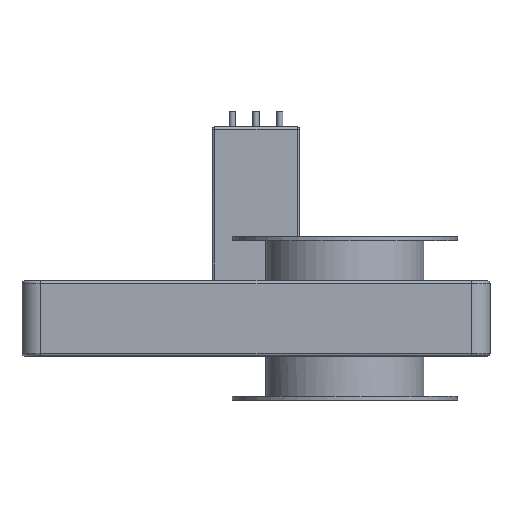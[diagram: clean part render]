
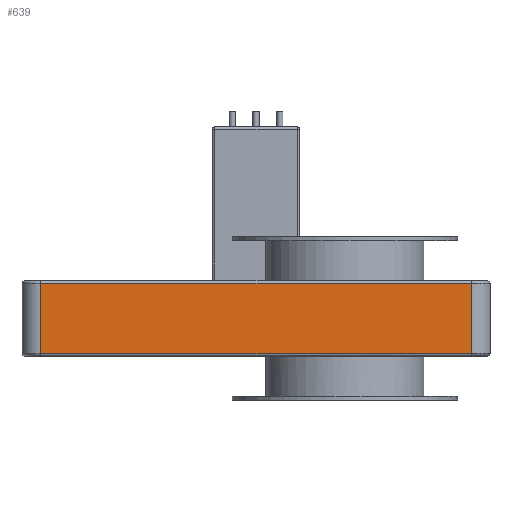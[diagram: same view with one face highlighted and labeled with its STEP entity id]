
A CAD part, front view. The second image highlights one B-rep face of the part: STEP entity #639.
In plain terms, the highlighted free-form (B-spline) face has degree [1, 1] with [2, 2] control points.
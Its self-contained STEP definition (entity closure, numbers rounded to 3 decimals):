
#588=CARTESIAN_POINT('',(-242.91,-95.5,-28.));
#589=VERTEX_POINT('',#588);
#596=CARTESIAN_POINT('',(-242.91,-95.5,28.));
#597=VERTEX_POINT('',#596);
#598=CARTESIAN_POINT('',(-242.91,-95.5,-28.));
#599=CARTESIAN_POINT('',(-242.91,-95.5,28.));
#600=B_SPLINE_CURVE_WITH_KNOTS('',1,(#598,#599),.POLYLINE_FORM.,.F.,.U.,(2,2),(0.033,0.967),.UNSPECIFIED.);
#601=EDGE_CURVE('',#589,#597,#600,.T.);
#612=CARTESIAN_POINT('',(-242.91,-95.5,-30.));
#613=CARTESIAN_POINT('',(-242.91,-95.5,30.));
#614=CARTESIAN_POINT('',(100.909,-95.5,-30.));
#615=CARTESIAN_POINT('',(100.909,-95.5,30.));
#616=B_SPLINE_SURFACE_WITH_KNOTS('',1,1,((#612,#613),(#614,#615)),.PLANE_SURF.,.F.,.F.,.U.,(2,2),(2,2),(0.,1.),(0.,1.),.UNSPECIFIED.);
#617=ORIENTED_EDGE('',*,*,#601,.F.);
#618=CARTESIAN_POINT('',(100.909,-95.5,-28.));
#619=VERTEX_POINT('',#618);
#620=CARTESIAN_POINT('',(-242.91,-95.5,-28.));
#621=CARTESIAN_POINT('',(100.909,-95.5,-28.));
#622=B_SPLINE_CURVE_WITH_KNOTS('',1,(#620,#621),.POLYLINE_FORM.,.F.,.U.,(2,2),(0.,1.),.UNSPECIFIED.);
#623=EDGE_CURVE('',#589,#619,#622,.T.);
#624=ORIENTED_EDGE('',*,*,#623,.T.);
#625=CARTESIAN_POINT('',(100.909,-95.5,28.));
#626=VERTEX_POINT('',#625);
#627=CARTESIAN_POINT('',(100.909,-95.5,-28.));
#628=CARTESIAN_POINT('',(100.909,-95.5,28.));
#629=B_SPLINE_CURVE_WITH_KNOTS('',1,(#627,#628),.POLYLINE_FORM.,.F.,.U.,(2,2),(0.033,0.967),.UNSPECIFIED.);
#630=EDGE_CURVE('',#619,#626,#629,.T.);
#631=ORIENTED_EDGE('',*,*,#630,.T.);
#632=CARTESIAN_POINT('',(-242.91,-95.5,28.));
#633=CARTESIAN_POINT('',(100.909,-95.5,28.));
#634=B_SPLINE_CURVE_WITH_KNOTS('',1,(#632,#633),.POLYLINE_FORM.,.F.,.U.,(2,2),(0.,1.),.UNSPECIFIED.);
#635=EDGE_CURVE('',#597,#626,#634,.T.);
#636=ORIENTED_EDGE('',*,*,#635,.F.);
#637=EDGE_LOOP('',(#617,#624,#631,#636));
#638=FACE_OUTER_BOUND('',#637,.T.);
#639=ADVANCED_FACE('',(#638),#616,.T.);
